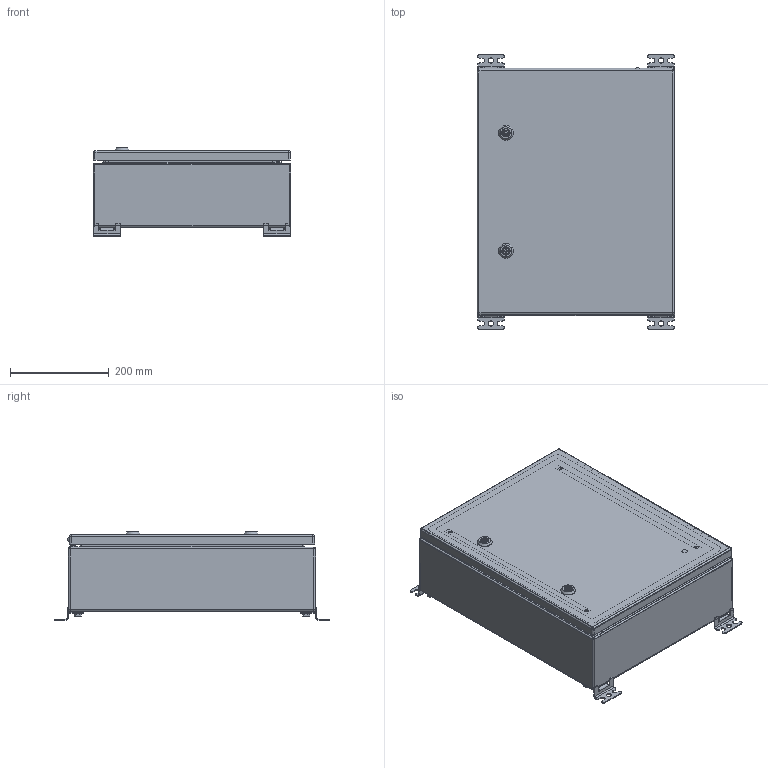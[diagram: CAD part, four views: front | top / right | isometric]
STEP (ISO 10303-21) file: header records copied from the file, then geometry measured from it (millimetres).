
FILE_DESCRIPTION(('STEP AP242'), '1');
FILE_NAME('400 ﾙﾌﾏ-1 (IP-56)', '', ('UNSPECIFIED'), ('UNSPECIFIED'), 'C3D Converter', 'C3D Toolkit', '');
FILE_SCHEMA(('AP242_MANAGED_MODEL_BASED_3D_ENGINEERING_MIM_LF { 1 0 10303 442 1 1 4 }'));
Length unit declared in the file: millimetre
Products named in the file (47): ЩМП-1-Ф СБ; 410-Ф; 420; 421; 411-Ф; 412; 490; 491; 401.01; 440-Ф; 441-Ф; 402; 450; 451; ЦИУЛ.210677.00.03-03; 452
Assembly tree (100 placements, depth 4):
  ЩМП-1-Ф СБ
    410-Ф
      420
        421
        (unnamed)  x4
        (unnamed)
      411-Ф
      412
    490  x2
      491
      (unnamed)
      (unnamed)
      (unnamed)
      (unnamed)
      (unnamed)
    490  x2
      491
      (unnamed)
      (unnamed)
      (unnamed)
      (unnamed)
      (unnamed)
    401.01
    (unnamed)  x4
    (unnamed)  x4
    (unnamed)  x4
    (unnamed)  x4
    (unnamed)  x2
      (unnamed)
      (unnamed)
      (unnamed)
    (unnamed)  x4
    440-Ф
      441-Ф
      (unnamed)
      (unnamed)  x4
      (unnamed)  x2
    402  x2
    (unnamed)  x4
    (unnamed)  x4
    (unnamed)  x2
      (unnamed)
      (unnamed)
      (unnamed)
      (unnamed)
      (unnamed)
    (unnamed)  x2
    450
      451
      (unnamed)  x3
      (unnamed)  x2
      (unnamed)  x2
      (unnamed)  x3
      ЦИУЛ.210677.00.03-03
      452
      (unnamed)
      (unnamed)  x2
Bounding box: 400 x 556 x 178.1 mm (x, y, z)
Volume: 1706193.4 mm3; surface area: 2024686.2 mm2
Topology: 112 solids, 112 shells, 2374 faces, 5712 edges, 3618 vertices
Faces by surface type: plane 1330, cylinder 671, cone 227, extrusion 54, bspline 32, sphere 31, torus 29
Full cylindrical faces by diameter (mm): 0.5 x4, 2.6 x8, 3.3 x1, 3.5 x60, 4 x1, 4.134 x3, 4.2 x5, 4.917 x4, 5 x9, 5.3 x2, 5.5 x11, 5.75 x3, 5.8 x2, 6 x18, 6.4 x4, 6.647 x8, 7 x6, 7.3 x4, 7.4 x1, 7.5 x6, 8 x14, 8.376 x4, 8.4 x8, 8.5 x19, 9 x12, 10 x10, 10.4 x2, 10.5 x6, 11 x4, 11.4 x1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
Entity records: 69029 total; most frequent: CARTESIAN_POINT 36198, DIRECTION 5400, ORIENTED_EDGE 5252, EDGE_CURVE 2626, AXIS2_PLACEMENT_3D 1955, VERTEX_POINT 1760, VECTOR 1490, EDGE_LOOP 1482
